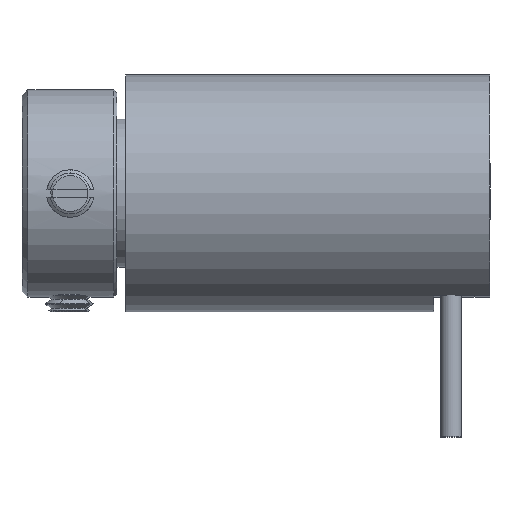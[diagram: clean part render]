
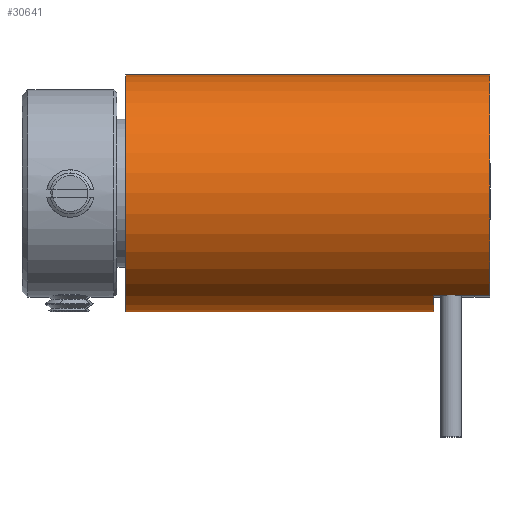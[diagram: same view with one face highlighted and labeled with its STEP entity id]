
A CAD part, top view. The second image highlights one B-rep face of the part: STEP entity #30641.
In plain terms, the highlighted cylindrical face has radius 4 mm (diameter 8 mm), a partial arc.
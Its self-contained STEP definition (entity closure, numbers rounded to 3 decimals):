
#609 = DIRECTION ( 'NONE',  ( 1., 0., 0. ) ) ;
#1128 = CARTESIAN_POINT ( 'NONE',  ( 13.044, 1.628, 9.221 ) ) ;
#1391 = CARTESIAN_POINT ( 'NONE',  ( 14.944, 1.628, 9.221 ) ) ;
#2527 = FACE_OUTER_BOUND ( 'NONE', #10161, .T. ) ;
#2678 = ORIENTED_EDGE ( 'NONE', *, *, #28868, .T. ) ;
#3244 = ORIENTED_EDGE ( 'NONE', *, *, #29207, .F. ) ;
#3695 = CIRCLE ( 'NONE', #17221, 4. ) ;
#5318 = DIRECTION ( 'NONE',  ( 1., 0., 0. ) ) ;
#6030 = CIRCLE ( 'NONE', #19884, 4. ) ;
#6046 = VERTEX_POINT ( 'NONE', #37894 ) ;
#7020 = CARTESIAN_POINT ( 'NONE',  ( 13.044, 5.092, 7.221 ) ) ;
#7824 = VECTOR ( 'NONE', #13002, 1000. ) ;
#8951 = DIRECTION ( 'NONE',  ( 1., 0., 0. ) ) ;
#9199 = ORIENTED_EDGE ( 'NONE', *, *, #29310, .F. ) ;
#9686 = LINE ( 'NONE', #20660, #16524 ) ;
#9694 = DIRECTION ( 'NONE',  ( 1., 0., 0. ) ) ;
#9827 = DIRECTION ( 'NONE',  ( 0., 1., 0. ) ) ;
#9928 = AXIS2_PLACEMENT_3D ( 'NONE', #22804, #5318, #25754 ) ;
#9965 = DIRECTION ( 'NONE',  ( 0., 0., 1. ) ) ;
#10108 = VERTEX_POINT ( 'NONE', #12561 ) ;
#10161 = EDGE_LOOP ( 'NONE', ( #12068, #2678, #21965, #11468, #3244, #9199 ) ) ;
#11468 = ORIENTED_EDGE ( 'NONE', *, *, #29090, .F. ) ;
#12068 = ORIENTED_EDGE ( 'NONE', *, *, #28940, .T. ) ;
#12561 = CARTESIAN_POINT ( 'NONE',  ( 2.644, 9.092, 7.221 ) ) ;
#13002 = DIRECTION ( 'NONE',  ( -1., 0., 0. ) ) ;
#14597 = VECTOR ( 'NONE', #31881, 1000. ) ;
#15509 = LINE ( 'NONE', #28963, #14597 ) ;
#16524 = VECTOR ( 'NONE', #8951, 1000. ) ;
#17221 = AXIS2_PLACEMENT_3D ( 'NONE', #7020, #27434, #9965 ) ;
#17848 = CARTESIAN_POINT ( 'NONE',  ( 14.944, 9.092, 7.221 ) ) ;
#18090 = CARTESIAN_POINT ( 'NONE',  ( 2.644, 5.092, 7.221 ) ) ;
#18332 = CARTESIAN_POINT ( 'NONE',  ( 14.944, 5.092, 7.221 ) ) ;
#19884 = AXIS2_PLACEMENT_3D ( 'NONE', #18090, #609, #21042 ) ;
#20660 = CARTESIAN_POINT ( 'NONE',  ( 14.944, 1.092, 7.221 ) ) ;
#21042 = DIRECTION ( 'NONE',  ( 0., 1., 0. ) ) ;
#21885 = CARTESIAN_POINT ( 'NONE',  ( 13.044, 1.092, 7.221 ) ) ;
#21965 = ORIENTED_EDGE ( 'NONE', *, *, #28989, .F. ) ;
#22804 = CARTESIAN_POINT ( 'NONE',  ( 14.944, 5.092, 7.221 ) ) ;
#23330 = LINE ( 'NONE', #1391, #7824 ) ;
#25679 = VERTEX_POINT ( 'NONE', #21885 ) ;
#25754 = DIRECTION ( 'NONE',  ( 0., 1., 0. ) ) ;
#27434 = DIRECTION ( 'NONE',  ( 1., 0., 0. ) ) ;
#28436 = VERTEX_POINT ( 'NONE', #1128 ) ;
#28868 = EDGE_CURVE ( 'NONE', #34298, #25679, #9686, .T. ) ;
#28904 = VERTEX_POINT ( 'NONE', #17848 ) ;
#28940 = EDGE_CURVE ( 'NONE', #10108, #34298, #6030, .T. ) ;
#28963 = CARTESIAN_POINT ( 'NONE',  ( 14.944, 9.092, 7.221 ) ) ;
#28989 = EDGE_CURVE ( 'NONE', #28436, #25679, #3695, .T. ) ;
#29090 = EDGE_CURVE ( 'NONE', #6046, #28436, #23330, .T. ) ;
#29207 = EDGE_CURVE ( 'NONE', #28904, #6046, #31068, .T. ) ;
#29310 = EDGE_CURVE ( 'NONE', #10108, #28904, #15509, .T. ) ;
#30641 = ADVANCED_FACE ( 'NONE', ( #2527 ), #36806, .T. ) ;
#30774 = AXIS2_PLACEMENT_3D ( 'NONE', #18332, #9694, #9827 ) ;
#31068 = CIRCLE ( 'NONE', #9928, 4. ) ;
#31881 = DIRECTION ( 'NONE',  ( 1., 0., 0. ) ) ;
#34298 = VERTEX_POINT ( 'NONE', #37449 ) ;
#36806 = CYLINDRICAL_SURFACE ( 'NONE', #30774, 4. ) ;
#37449 = CARTESIAN_POINT ( 'NONE',  ( 2.644, 1.092, 7.221 ) ) ;
#37894 = CARTESIAN_POINT ( 'NONE',  ( 14.944, 1.628, 9.221 ) ) ;
